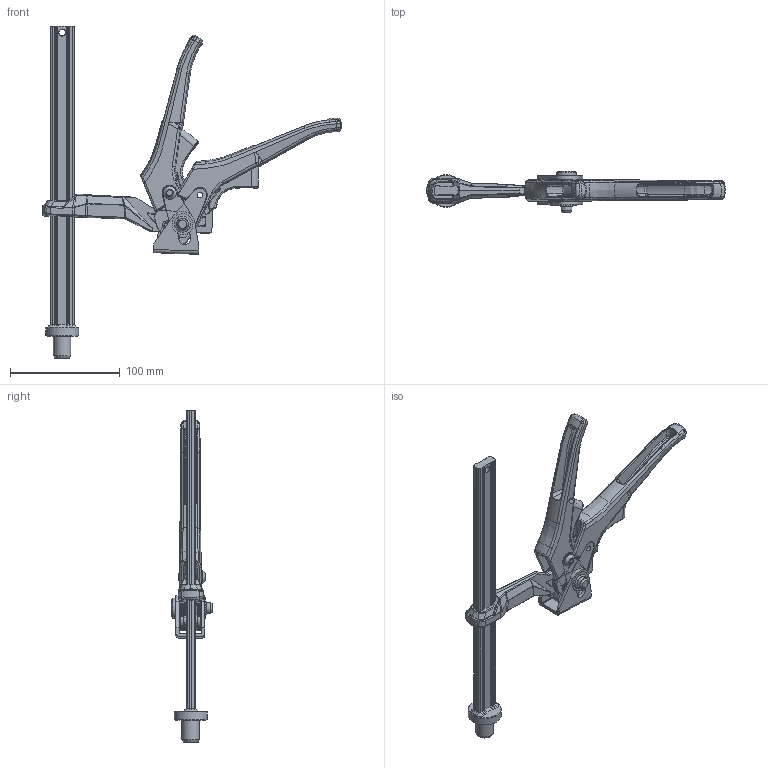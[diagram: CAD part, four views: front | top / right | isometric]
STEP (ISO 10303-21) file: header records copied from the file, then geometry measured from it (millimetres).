
FILE_DESCRIPTION( ('This file contains a STEP AP42 implementation' ,'as created by ZW3D STEP Interface translator.') ,'2;1' );
FILE_NAME( 'TW16-20-10H.stp' ,'25 6 4.153612', (''), ('ZWCAD Software Co.'), 'Version 1.0', 'ZW3D to STEP translator', '' );
FILE_SCHEMA(('AUTOMOTIVE_DESIGN { 1 0 10303 214 1 1 1 1 }'));
Length unit declared in the file: millimetre
Products named in the file (22): 0; TW16-20-10H; 1; 1.1; 2; 2.1; 2.1.1; 2.1.1.1; 2.1.2; 2.1.3; 2.2; 2.2.1; 2.2.2; 2.3; 2.4; 2.5; 2.6; 2.7; 2.8; 2.9; 2_2.2; 1_2.1
Assembly tree (27 placements, depth 5):
  0
  TW16-20-10H
    1
      1.1
    2
      2.1
        2.1.1
          2.1.1.1
        2.1.2
        2.1.3
      2.2
        2.2.1
        2.2.2  x2
      2.3
      2.4
      2.5
      2.6
      2.7
      2.8
      2.9
      2_2.2
        2.2.1
        2.2.2  x2
      1_2.1
        2.1.1
          2.1.1.1
        2.1.2
        2.1.3
Bounding box: 272.79 x 37.5 x 303 mm (x, y, z)
Volume: 196495.7 mm3; surface area: 112444.2 mm2
Topology: 21 solids, 21 shells, 2319 faces, 6263 edges, 3968 vertices
Faces by surface type: plane 1242, bspline 536, cylinder 402, cone 78, torus 43, sphere 18
Full cylindrical faces by diameter (mm): 4 x2, 4.8 x1, 5 x10, 6 x10, 8 x1, 9 x8, 10 x7, 11.1 x1, 12 x1, 15 x8, 16 x1, 18 x1, 19 x1, 30 x1
Entity records: 63385 total; most frequent: CARTESIAN_POINT 29902, ORIENTED_EDGE 7358, DIRECTION 5554, EDGE_CURVE 3679, VERTEX_POINT 2312, VECTOR 2080, LINE 2080, AXIS2_PLACEMENT_3D 1737
